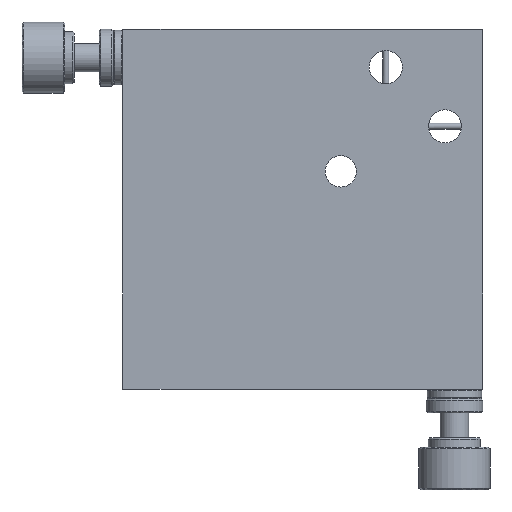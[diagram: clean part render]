
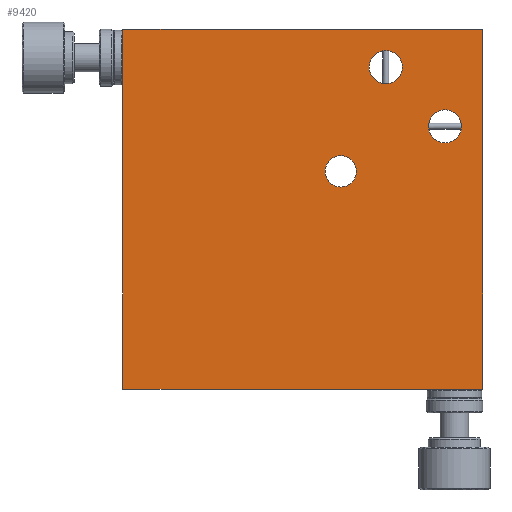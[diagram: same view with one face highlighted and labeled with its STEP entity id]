
A CAD part, front view. The second image highlights one B-rep face of the part: STEP entity #9420.
In plain terms, the highlighted planar face has unit normal (0, -1, 0).
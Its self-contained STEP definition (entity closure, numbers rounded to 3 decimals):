
#2654 = CARTESIAN_POINT ( 'NONE',  ( 68., 0., -24. ) ) ;
#2656 = CARTESIAN_POINT ( 'NONE',  ( 68., 0., -17. ) ) ;
#2821 = DIRECTION ( 'NONE',  ( 0., 0., -1. ) ) ;
#2822 = DIRECTION ( 'NONE',  ( 0., -1., 0. ) ) ;
#2823 = CARTESIAN_POINT ( 'NONE',  ( 55.5, 0., -8. ) ) ;
#2824 = AXIS2_PLACEMENT_3D ( 'NONE', #2823, #2822, #2821 ) ;
#2825 = CIRCLE ( 'NONE', #2824, 3.5 ) ;
#2850 = DIRECTION ( 'NONE',  ( 0., 0., -1. ) ) ;
#2851 = DIRECTION ( 'NONE',  ( 0., -1., 0. ) ) ;
#2852 = CARTESIAN_POINT ( 'NONE',  ( 68., 0., -20.5 ) ) ;
#2853 = AXIS2_PLACEMENT_3D ( 'NONE', #2852, #2851, #2850 ) ;
#2854 = CIRCLE ( 'NONE', #2853, 3.5 ) ;
#2868 = CARTESIAN_POINT ( 'NONE',  ( 55.5, 0., -11.5 ) ) ;
#2939 = CARTESIAN_POINT ( 'NONE',  ( 55.5, 0., -4.5 ) ) ;
#3012 = DIRECTION ( 'NONE',  ( 0., 0., -1. ) ) ;
#3013 = DIRECTION ( 'NONE',  ( 0., -1., 0. ) ) ;
#3014 = CARTESIAN_POINT ( 'NONE',  ( 46., 0., -30. ) ) ;
#3015 = AXIS2_PLACEMENT_3D ( 'NONE', #3014, #3013, #3012 ) ;
#3016 = CIRCLE ( 'NONE', #3015, 3.3 ) ;
#3080 = CARTESIAN_POINT ( 'NONE',  ( 46., 0., -26.7 ) ) ;
#3138 = CARTESIAN_POINT ( 'NONE',  ( 46., 0., -33.3 ) ) ;
#4729 = CARTESIAN_POINT ( 'NONE',  ( 0., 0., 0. ) ) ;
#4754 = CARTESIAN_POINT ( 'NONE',  ( 76., 0., 0. ) ) ;
#4755 = DIRECTION ( 'NONE',  ( 1., 0., 0. ) ) ;
#4756 = VECTOR ( 'NONE', #4755, 1000. ) ;
#4757 = CARTESIAN_POINT ( 'NONE',  ( 0., 0., 0. ) ) ;
#4758 = LINE ( 'NONE', #4757, #4756 ) ;
#9344 = ORIENTED_EDGE ( 'NONE', *, *, #9395, .F. ) ;
#9359 = ORIENTED_EDGE ( 'NONE', *, *, #9490, .F. ) ;
#9364 = ORIENTED_EDGE ( 'NONE', *, *, #9371, .F. ) ;
#9371 = EDGE_CURVE ( 'NONE', #9442, #14894, #19787, .T. ) ;
#9376 = ORIENTED_EDGE ( 'NONE', *, *, #14921, .F. ) ;
#9377 = ORIENTED_EDGE ( 'NONE', *, *, #13777, .F. ) ;
#9391 = EDGE_LOOP ( 'NONE', ( #9364, #9396, #9359, #9376 ) ) ;
#9395 = EDGE_CURVE ( 'NONE', #13782, #13784, #19726, .T. ) ;
#9396 = ORIENTED_EDGE ( 'NONE', *, *, #9440, .F. ) ;
#9406 = EDGE_LOOP ( 'NONE', ( #9407, #9408 ) ) ;
#9407 = ORIENTED_EDGE ( 'NONE', *, *, #13673, .F. ) ;
#9408 = ORIENTED_EDGE ( 'NONE', *, *, #9409, .F. ) ;
#9409 = EDGE_CURVE ( 'NONE', #13672, #13718, #19705, .T. ) ;
#9420 = ADVANCED_FACE ( 'NONE', ( #19861, #19897, #19896, #19895 ), #19907, .T. ) ;
#9421 = EDGE_LOOP ( 'NONE', ( #9497, #9464 ) ) ;
#9440 = EDGE_CURVE ( 'NONE', #9441, #9442, #19909, .T. ) ;
#9441 = VERTEX_POINT ( 'NONE', #19891 ) ;
#9442 = VERTEX_POINT ( 'NONE', #19890 ) ;
#9464 = ORIENTED_EDGE ( 'NONE', *, *, #9465, .F. ) ;
#9465 = EDGE_CURVE ( 'NONE', #13601, #13598, #19936, .T. ) ;
#9487 = EDGE_LOOP ( 'NONE', ( #9377, #9344 ) ) ;
#9490 = EDGE_CURVE ( 'NONE', #14923, #9441, #20026, .T. ) ;
#9497 = ORIENTED_EDGE ( 'NONE', *, *, #13691, .F. ) ;
#13598 = VERTEX_POINT ( 'NONE', #2656 ) ;
#13601 = VERTEX_POINT ( 'NONE', #2654 ) ;
#13672 = VERTEX_POINT ( 'NONE', #2868 ) ;
#13673 = EDGE_CURVE ( 'NONE', #13718, #13672, #2825, .T. ) ;
#13691 = EDGE_CURVE ( 'NONE', #13598, #13601, #2854, .T. ) ;
#13718 = VERTEX_POINT ( 'NONE', #2939 ) ;
#13777 = EDGE_CURVE ( 'NONE', #13784, #13782, #3016, .T. ) ;
#13782 = VERTEX_POINT ( 'NONE', #3138 ) ;
#13784 = VERTEX_POINT ( 'NONE', #3080 ) ;
#14894 = VERTEX_POINT ( 'NONE', #4729 ) ;
#14921 = EDGE_CURVE ( 'NONE', #14894, #14923, #4758, .T. ) ;
#14923 = VERTEX_POINT ( 'NONE', #4754 ) ;
#19701 = DIRECTION ( 'NONE',  ( 0., 0., -1. ) ) ;
#19702 = DIRECTION ( 'NONE',  ( 0., -1., 0. ) ) ;
#19703 = CARTESIAN_POINT ( 'NONE',  ( 55.5, 0., -8. ) ) ;
#19704 = AXIS2_PLACEMENT_3D ( 'NONE', #19703, #19702, #19701 ) ;
#19705 = CIRCLE ( 'NONE', #19704, 3.5 ) ;
#19722 = DIRECTION ( 'NONE',  ( 0., 0., -1. ) ) ;
#19723 = DIRECTION ( 'NONE',  ( 0., -1., 0. ) ) ;
#19724 = CARTESIAN_POINT ( 'NONE',  ( 46., 0., -30. ) ) ;
#19725 = AXIS2_PLACEMENT_3D ( 'NONE', #19724, #19723, #19722 ) ;
#19726 = CIRCLE ( 'NONE', #19725, 3.3 ) ;
#19784 = DIRECTION ( 'NONE',  ( 0., 0., 1. ) ) ;
#19785 = VECTOR ( 'NONE', #19784, 1000. ) ;
#19786 = CARTESIAN_POINT ( 'NONE',  ( 0., 0., 0. ) ) ;
#19787 = LINE ( 'NONE', #19786, #19785 ) ;
#19861 = FACE_BOUND ( 'NONE', #9421, .T. ) ;
#19890 = CARTESIAN_POINT ( 'NONE',  ( 0., 0., -76. ) ) ;
#19891 = CARTESIAN_POINT ( 'NONE',  ( 76., 0., -76. ) ) ;
#19892 = DIRECTION ( 'NONE',  ( -1., 0., 0. ) ) ;
#19893 = VECTOR ( 'NONE', #19892, 1000. ) ;
#19894 = CARTESIAN_POINT ( 'NONE',  ( 0., 0., -76. ) ) ;
#19895 = FACE_OUTER_BOUND ( 'NONE', #9391, .T. ) ;
#19896 = FACE_BOUND ( 'NONE', #9487, .T. ) ;
#19897 = FACE_BOUND ( 'NONE', #9406, .T. ) ;
#19903 = DIRECTION ( 'NONE',  ( 0., 0., -1. ) ) ;
#19904 = DIRECTION ( 'NONE',  ( 0., -1., 0. ) ) ;
#19905 = CARTESIAN_POINT ( 'NONE',  ( 0., 0., -76. ) ) ;
#19906 = AXIS2_PLACEMENT_3D ( 'NONE', #19905, #19904, #19903 ) ;
#19907 = PLANE ( 'NONE',  #19906 ) ;
#19909 = LINE ( 'NONE', #19894, #19893 ) ;
#19932 = DIRECTION ( 'NONE',  ( 0., 0., -1. ) ) ;
#19933 = DIRECTION ( 'NONE',  ( 0., -1., 0. ) ) ;
#19934 = CARTESIAN_POINT ( 'NONE',  ( 68., 0., -20.5 ) ) ;
#19935 = AXIS2_PLACEMENT_3D ( 'NONE', #19934, #19933, #19932 ) ;
#19936 = CIRCLE ( 'NONE', #19935, 3.5 ) ;
#20025 = CARTESIAN_POINT ( 'NONE',  ( 76., 0., 0. ) ) ;
#20026 = LINE ( 'NONE', #20025, #20050 ) ;
#20049 = DIRECTION ( 'NONE',  ( 0., 0., -1. ) ) ;
#20050 = VECTOR ( 'NONE', #20049, 1000. ) ;
